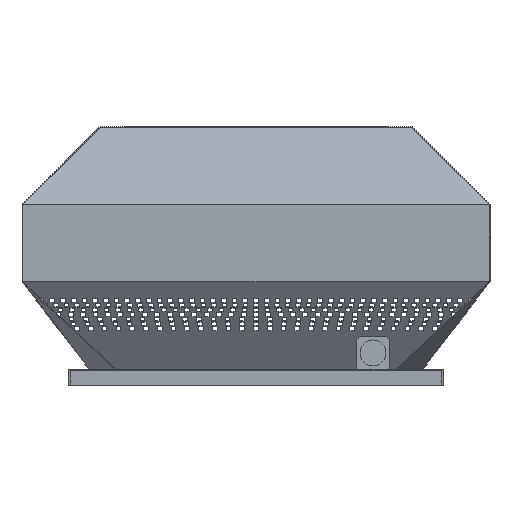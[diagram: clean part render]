
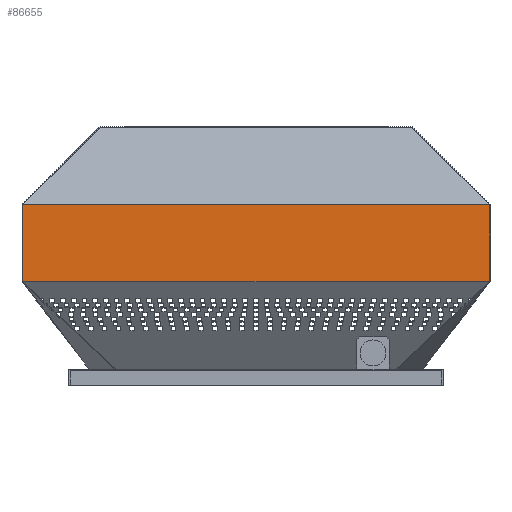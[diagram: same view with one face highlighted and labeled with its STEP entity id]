
A CAD part, left-side view. The second image highlights one B-rep face of the part: STEP entity #86655.
In plain terms, the highlighted planar face has unit normal (-1, 0, 0).
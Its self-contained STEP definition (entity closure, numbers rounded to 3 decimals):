
#7497=PLANE('',#90574);
#11348=FACE_OUTER_BOUND('',#17040,.T.);
#17040=EDGE_LOOP('',(#82767,#82768,#82769,#82770));
#18436=LINE('',#112738,#30006);
#28607=LINE('',#133118,#40177);
#28608=LINE('',#133121,#40178);
#28609=LINE('',#133122,#40179);
#30006=VECTOR('',#92900,10.);
#40177=VECTOR('',#109927,10.);
#40178=VECTOR('',#109930,10.);
#40179=VECTOR('',#109931,10.);
#41156=VERTEX_POINT('',#112735);
#41157=VERTEX_POINT('',#112737);
#47937=VERTEX_POINT('',#133114);
#47939=VERTEX_POINT('',#133120);
#49332=EDGE_CURVE('',#41157,#41156,#18436,.T.);
#59549=EDGE_CURVE('',#47937,#41157,#28607,.T.);
#59550=EDGE_CURVE('',#47939,#47937,#28608,.T.);
#59551=EDGE_CURVE('',#47939,#41156,#28609,.T.);
#82767=ORIENTED_EDGE('',*,*,#59550,.T.);
#82768=ORIENTED_EDGE('',*,*,#59549,.T.);
#82769=ORIENTED_EDGE('',*,*,#49332,.T.);
#82770=ORIENTED_EDGE('',*,*,#59551,.F.);
#86655=ADVANCED_FACE('',(#11348),#7497,.F.);
#90574=AXIS2_PLACEMENT_3D('',#133119,#109928,#109929);
#92900=DIRECTION('',(0.,-1.,0.));
#109927=DIRECTION('',(0.,0.,-1.));
#109928=DIRECTION('center_axis',(1.,0.,0.));
#109929=DIRECTION('ref_axis',(0.,0.,-1.));
#109930=DIRECTION('',(0.,1.,0.));
#109931=DIRECTION('',(0.,0.,-1.));
#112735=CARTESIAN_POINT('',(-577.5,-577.5,255.2));
#112737=CARTESIAN_POINT('',(-577.5,577.5,255.2));
#112738=CARTESIAN_POINT('',(-577.5,577.5,255.2));
#133114=CARTESIAN_POINT('',(-577.5,577.5,446.6));
#133118=CARTESIAN_POINT('',(-577.5,577.5,446.6));
#133119=CARTESIAN_POINT('Origin',(-577.5,577.5,446.6));
#133120=CARTESIAN_POINT('',(-577.5,-577.5,446.6));
#133121=CARTESIAN_POINT('',(-577.5,577.5,446.6));
#133122=CARTESIAN_POINT('',(-577.5,-577.5,446.6));
